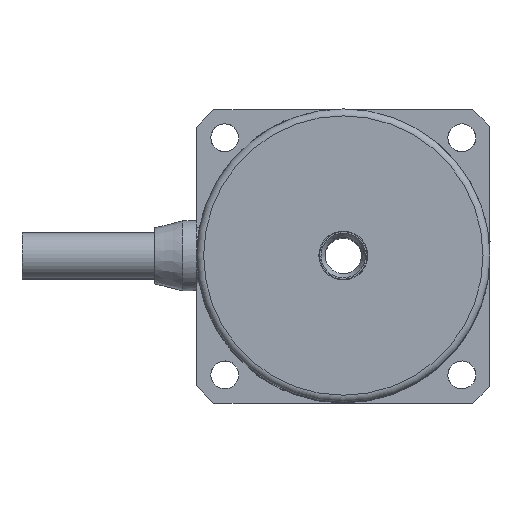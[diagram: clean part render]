
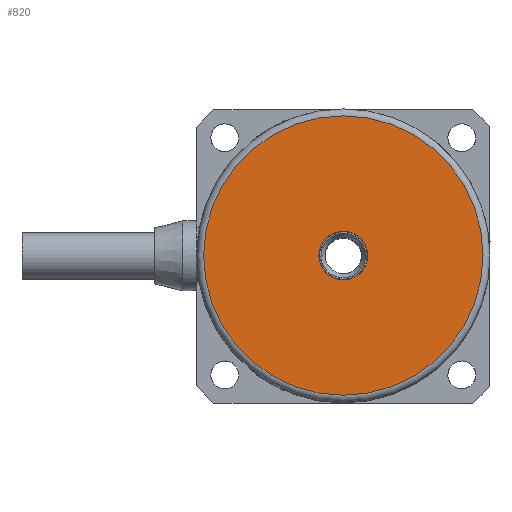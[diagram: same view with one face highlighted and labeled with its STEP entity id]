
A CAD part, top view. The second image highlights one B-rep face of the part: STEP entity #820.
In plain terms, the highlighted planar face has unit normal (0, 0, 1) as drawn and (0, 0, -1) by its records, which use the part's own axes.
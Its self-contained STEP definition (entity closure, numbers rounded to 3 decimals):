
#820=ADVANCED_FACE('',(#1654,#1655),#1656,.F.);
#1654=FACE_BOUND('',#2642,.T.);
#1655=FACE_OUTER_BOUND('',#2643,.T.);
#1656=PLANE('',#2644);
#2642=EDGE_LOOP('',(#4039));
#2643=EDGE_LOOP('',(#4040));
#2644=AXIS2_PLACEMENT_3D('',#4041,#4042,#4043);
#4039=ORIENTED_EDGE('',*,*,#5427,.F.);
#4040=ORIENTED_EDGE('',*,*,#5428,.T.);
#4041=CARTESIAN_POINT('',(0.0,0.0,0.0));
#4042=DIRECTION('',(0.0,0.0,1.0));
#4043=DIRECTION('',(1.0,0.0,0.0));
#5427=EDGE_CURVE('',#6301,#6301,#6302,.T.);
#5428=EDGE_CURVE('',#6303,#6303,#6304,.F.);
#6301=VERTEX_POINT('',#7670);
#6302=CIRCLE('',#7671,1.75);
#6303=VERTEX_POINT('',#7672);
#6304=CIRCLE('',#7673,10.0);
#7670=CARTESIAN_POINT('',(-1.75,0.0,0.0));
#7671=AXIS2_PLACEMENT_3D('',#9172,#9173,#9174);
#7672=CARTESIAN_POINT('',(10.0,0.,0.0));
#7673=AXIS2_PLACEMENT_3D('',#9175,#9176,#9177);
#9172=CARTESIAN_POINT('',(0.0,0.0,0.0));
#9173=DIRECTION('',(0.0,0.0,-1.0));
#9174=DIRECTION('',(-1.0,0.0,0.0));
#9175=CARTESIAN_POINT('',(0.0,0.0,0.0));
#9176=DIRECTION('',(0.0,0.0,1.0));
#9177=DIRECTION('',(1.0,0.0,0.0));
